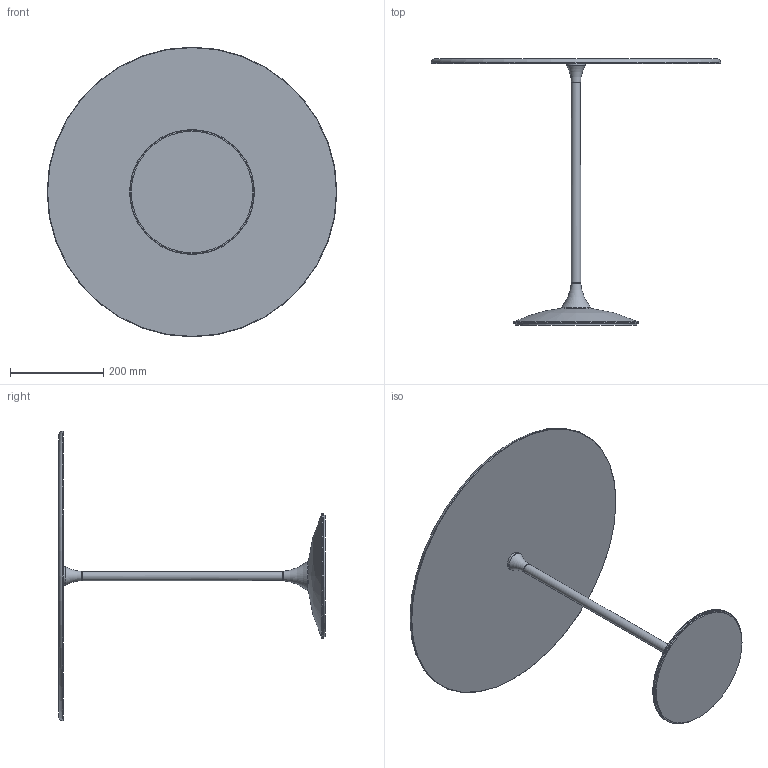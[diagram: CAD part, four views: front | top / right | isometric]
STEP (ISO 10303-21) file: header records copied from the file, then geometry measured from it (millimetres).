
FILE_DESCRIPTION((''),'2;1');
FILE_NAME('C:\AutodeskVault\AreaLavoro\Progetti\SoVeT Italia\2. Tavolini_Coffee tables\Tulip\Web file\Tulip Web\P4612.stp','2012-06-14T17:27:38',('Gianluca'),('So.Ve.T. s.r.l.'),'Autodesk Inventor 2013','Autodesk Inventor 2013','IL PROGETTO E'' DI ESCLUSIVA PROPRIETA'' DELLA SO.VE.T. srl. E'' VIETATA OGNI RIPRODUZIONE TOTALE O PARZIALE E QUALSIASI UTILIZZO NON AUTORIZZATO. ');
FILE_SCHEMA(('AUTOMOTIVE_DESIGN { 1 0 10303 214 1 1 1 1 }'));
Length unit declared in the file: millimetre
Products named in the file (1): P4612 LCTR Contorno semplificato
Bounding box: 620 x 570.45 x 620 mm (x, y, z)
Volume: 4468789 mm3; surface area: 768231.8 mm2
Topology: 1 solids, 1 shells, 26 faces, 51 edges, 30 vertices
Faces by surface type: cone 7, torus 7, plane 6, cylinder 5, bspline 1
Full cylindrical faces by diameter (mm): 20 x1, 40 x1, 60 x1, 260 x1, 267 x1
Entity records: 614 total; most frequent: CARTESIAN_POINT 102, DIRECTION 102, AXIS2_PLACEMENT_3D 51, ORIENTED_EDGE 50, EDGE_LOOP 50, STYLED_ITEM 27, FACE_OUTER_BOUND 26, ADVANCED_FACE 26
